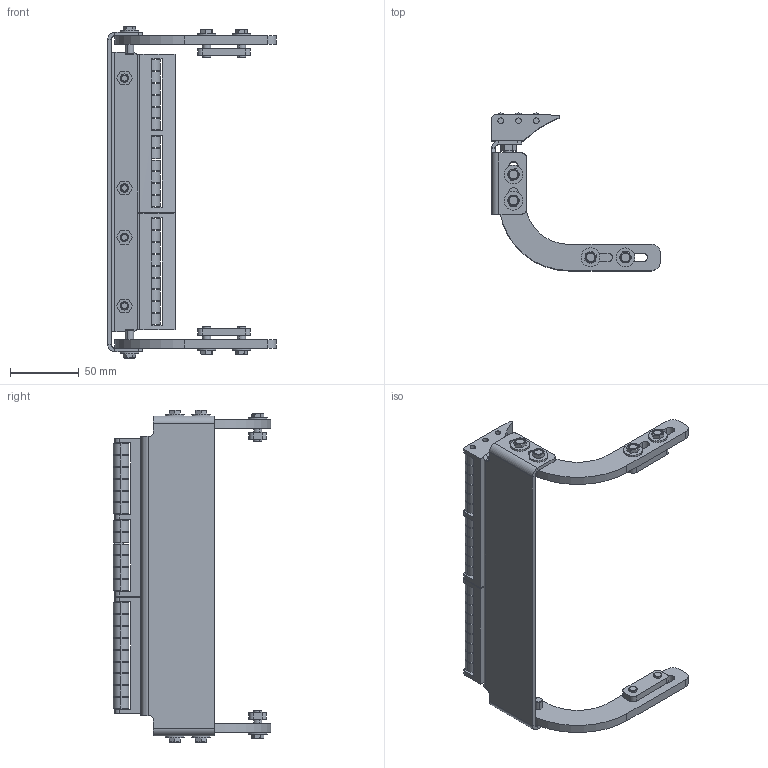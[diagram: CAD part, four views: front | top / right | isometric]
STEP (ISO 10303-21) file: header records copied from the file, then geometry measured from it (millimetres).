
FILE_DESCRIPTION((''),'2;1');
FILE_NAME('518355-08_ASM','2023-03-23T',('jenni.wallner'),(''),'PRO/ENGINEER BY PARAMETRIC TECHNOLOGY CORPORATION, 2012420','PRO/ENGINEER BY PARAMETRIC TECHNOLOGY CORPORATION, 2012420','');
FILE_SCHEMA(('CONFIG_CONTROL_DESIGN'));
Length unit declared in the file: inch
Products named in the file (75): 960616MSSF; 532387; 807-1829_15-1-SOLID1; 807-1829_10-1-SOLID1; 807-1829_2-1-SOLID1; 807-1829_13-1-SOLID1; CUT-EXTRUDE1_2_; 807-1829_5-1-SOLID1; 807-1829_8-1-SOLID1; 807-1829_7-1-SOLID1; 807-1829_14-1-SOLID1; 807-1829_4-1-SOLID1; 807-1829_1-1-SOLID1; 807-1829_16-1-SOLID1; 807-1829_17-1-SOLID1; 807-1829_12-1-SOLID1; 807-1829_9-1-SOLID1; 807-1829_24-1-SOLID1; CUT-EXTRUDE1_1_; 807-1829_25-1-SOLID1; 807-1829_26-1-SOLID1; 807-1829_21-1-SOLID1; 807-1829_3-1-SOLID1; 807-1829_6-1-SOLID1; 807-1829_23-1-SOLID1; 807-1829_20-1-SOLID1; 807-1829_11-1-SOLID1; CUT-EXTRUDE1_3_; 807-1829_19-1-SOLID1; 807-1829_18-1-SOLID1; 807-1829-1-SOLID1; 807-1829_27-1-SOLID1; 807-1829_ASM; 518353-WW_518353-08; 520309; 807-1830_33-1-SOLID1; 807-1830_12-1-SOLID1; 807-1830_1-1-SOLID1; 807-1830_24-1-SOLID1; 807-1830_13-1-SOLID1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
Assembly tree (83 placements, depth 4):
  518355-08_ASM
    ASM0001_ASM
      960616MSSF  x8
      532387  x2
      807-1829_ASM
        807-1829_15-1-SOLID1
        807-1829_10-1-SOLID1
        807-1829_2-1-SOLID1
        807-1829_13-1-SOLID1
        CUT-EXTRUDE1_2_
        807-1829_5-1-SOLID1
        807-1829_8-1-SOLID1
        807-1829_7-1-SOLID1
        807-1829_14-1-SOLID1
        807-1829_4-1-SOLID1
        807-1829_1-1-SOLID1
        807-1829_16-1-SOLID1
        807-1829_17-1-SOLID1
        807-1829_12-1-SOLID1
        807-1829_9-1-SOLID1
        807-1829_24-1-SOLID1
        CUT-EXTRUDE1_1_
        807-1829_25-1-SOLID1
        807-1829_26-1-SOLID1
        807-1829_21-1-SOLID1
        807-1829_3-1-SOLID1
        807-1829_6-1-SOLID1
        807-1829_23-1-SOLID1
        807-1829_20-1-SOLID1
        807-1829_11-1-SOLID1
        CUT-EXTRUDE1_3_
        807-1829_19-1-SOLID1
        807-1829_18-1-SOLID1
        807-1829-1-SOLID1
        807-1829_27-1-SOLID1
      518353-WW_518353-08
      520309  x2
      807-1830_ASM
        807-1830_33-1-SOLID1
        807-1830_12-1-SOLID1
        807-1830_1-1-SOLID1
        807-1830_24-1-SOLID1
        807-1830_13-1-SOLID1
        807-1830_29-1-SOLID1
        807-1830_17-1-SOLID1
        807-1830_20-1-SOLID1
        807-1830_16-1-SOLID1
        807-1830_32-1-SOLID1
        807-1830_4-1-SOLID1
        807-1830_8-1-SOLID1
        807-1830_3-1-SOLID1
        807-1830_5-1-SOLID1
        807-1830_7-1-SOLID1
        807-1830_19-1-SOLID1
        807-1830_31-1-SOLID1
        807-1830_6-1-SOLID1
        807-1830_27-1-SOLID1
        807-1830_18-1-SOLID1
        807-1830_11-1-SOLID1
        807-1830_22-1-SOLID1
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Bounding box: 122.82 x 114.68 x 241.72 mm (x, y, z)
Volume: 196230 mm3; surface area: 120717.2 mm2
Topology: 80 solids, 80 shells, 701 faces, 1479 edges, 969 vertices
Faces by surface type: plane 352, cylinder 309, cone 40
Entity records: 15962 total; most frequent: DIRECTION 3064, CARTESIAN_POINT 2554, ORIENTED_EDGE 2106, AXIS2_PLACEMENT_3D 1265, EDGE_CURVE 1053, VERTEX_POINT 693, EDGE_LOOP 584, VECTOR 534
